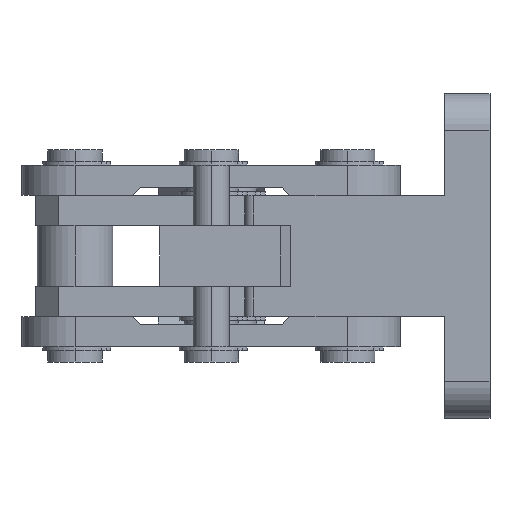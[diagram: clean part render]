
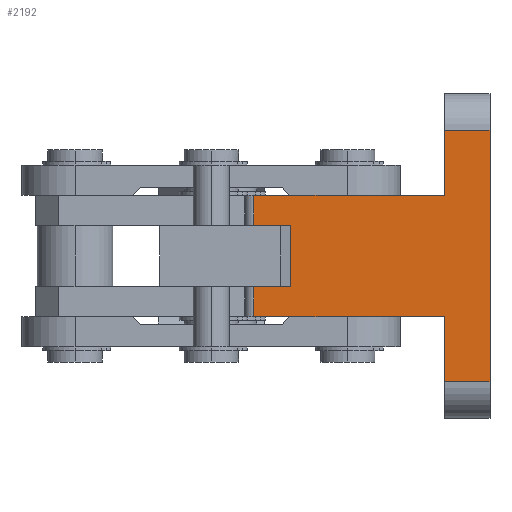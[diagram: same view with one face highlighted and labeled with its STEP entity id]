
A CAD part, left-side view. The second image highlights one B-rep face of the part: STEP entity #2192.
In plain terms, the highlighted planar face has unit normal (-1, 0, 0).
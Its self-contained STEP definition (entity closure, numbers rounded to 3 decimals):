
#1681 = VERTEX_POINT ( 'NONE', #7145 ) ;
#1683 = EDGE_CURVE ( 'NONE', #1681, #1684, #7144, .T. ) ;
#1684 = VERTEX_POINT ( 'NONE', #7140 ) ;
#1718 = EDGE_CURVE ( 'NONE', #1737, #1719, #7215, .T. ) ;
#1719 = VERTEX_POINT ( 'NONE', #7211 ) ;
#1726 = VERTEX_POINT ( 'NONE', #7199 ) ;
#1737 = VERTEX_POINT ( 'NONE', #7233 ) ;
#1748 = EDGE_CURVE ( 'NONE', #1726, #1749, #7226, .T. ) ;
#1749 = VERTEX_POINT ( 'NONE', #7222 ) ;
#1770 = EDGE_CURVE ( 'NONE', #1684, #1737, #7269, .T. ) ;
#1790 = EDGE_CURVE ( 'NONE', #1719, #1726, #7303, .T. ) ;
#1810 = VERTEX_POINT ( 'NONE', #7327 ) ;
#1813 = EDGE_CURVE ( 'NONE', #1810, #1814, #7325, .T. ) ;
#1814 = VERTEX_POINT ( 'NONE', #7321 ) ;
#1847 = EDGE_CURVE ( 'NONE', #1749, #1920, #7408, .T. ) ;
#1863 = EDGE_CURVE ( 'NONE', #1920, #1864, #7384, .T. ) ;
#1864 = VERTEX_POINT ( 'NONE', #7380 ) ;
#1899 = EDGE_CURVE ( 'NONE', #1814, #1681, #7457, .T. ) ;
#1920 = VERTEX_POINT ( 'NONE', #7498 ) ;
#2006 = EDGE_CURVE ( 'NONE', #1864, #2007, #7579, .T. ) ;
#2007 = VERTEX_POINT ( 'NONE', #7575 ) ;
#2101 = ORIENTED_EDGE ( 'NONE', *, *, #1790, .F. ) ;
#2102 = ORIENTED_EDGE ( 'NONE', *, *, #1718, .F. ) ;
#2103 = ORIENTED_EDGE ( 'NONE', *, *, #1770, .F. ) ;
#2104 = ORIENTED_EDGE ( 'NONE', *, *, #1683, .F. ) ;
#2105 = ORIENTED_EDGE ( 'NONE', *, *, #1899, .F. ) ;
#2132 = VERTEX_POINT ( 'NONE', #7809 ) ;
#2191 = EDGE_CURVE ( 'NONE', #2132, #1810, #7916, .T. ) ;
#2192 = ADVANCED_FACE ( 'NONE', ( #7912 ), #7911, .F. ) ;
#2193 = EDGE_LOOP ( 'NONE', ( #2194, #2195, #2196, #2198, #2199, #2200, #2201, #2101, #2102, #2103, #2104, #2105 ) ) ;
#2194 = ORIENTED_EDGE ( 'NONE', *, *, #1813, .F. ) ;
#2195 = ORIENTED_EDGE ( 'NONE', *, *, #2191, .F. ) ;
#2196 = ORIENTED_EDGE ( 'NONE', *, *, #2197, .T. ) ;
#2197 = EDGE_CURVE ( 'NONE', #2132, #2007, #7909, .T. ) ;
#2198 = ORIENTED_EDGE ( 'NONE', *, *, #2006, .F. ) ;
#2199 = ORIENTED_EDGE ( 'NONE', *, *, #1863, .F. ) ;
#2200 = ORIENTED_EDGE ( 'NONE', *, *, #1847, .F. ) ;
#2201 = ORIENTED_EDGE ( 'NONE', *, *, #1748, .F. ) ;
#7140 = CARTESIAN_POINT ( 'NONE',  ( 0., 78., -10.1 ) ) ;
#7141 = DIRECTION ( 'NONE',  ( 0., 0., 1. ) ) ;
#7142 = VECTOR ( 'NONE', #7141, 1000. ) ;
#7143 = CARTESIAN_POINT ( 'NONE',  ( 0., 78., 53.5 ) ) ;
#7144 = LINE ( 'NONE', #7143, #7142 ) ;
#7145 = CARTESIAN_POINT ( 'NONE',  ( 0., 78., -20. ) ) ;
#7199 = CARTESIAN_POINT ( 'NONE',  ( 0., 78., 10.1 ) ) ;
#7211 = CARTESIAN_POINT ( 'NONE',  ( 0., 66., 10.1 ) ) ;
#7212 = DIRECTION ( 'NONE',  ( 0., 0., 1. ) ) ;
#7213 = VECTOR ( 'NONE', #7212, 1000. ) ;
#7214 = CARTESIAN_POINT ( 'NONE',  ( 0., 66., 53.5 ) ) ;
#7215 = LINE ( 'NONE', #7214, #7213 ) ;
#7222 = CARTESIAN_POINT ( 'NONE',  ( 0., 78., 20. ) ) ;
#7223 = DIRECTION ( 'NONE',  ( 0., 0., 1. ) ) ;
#7224 = VECTOR ( 'NONE', #7223, 1000. ) ;
#7225 = CARTESIAN_POINT ( 'NONE',  ( 0., 78., 53.5 ) ) ;
#7226 = LINE ( 'NONE', #7225, #7224 ) ;
#7233 = CARTESIAN_POINT ( 'NONE',  ( 0., 66., -10.1 ) ) ;
#7266 = DIRECTION ( 'NONE',  ( 0., -1., 0. ) ) ;
#7267 = VECTOR ( 'NONE', #7266, 1000. ) ;
#7268 = CARTESIAN_POINT ( 'NONE',  ( 0., 78., -10.1 ) ) ;
#7269 = LINE ( 'NONE', #7268, #7267 ) ;
#7300 = DIRECTION ( 'NONE',  ( 0., 1., 0. ) ) ;
#7301 = VECTOR ( 'NONE', #7300, 1000. ) ;
#7302 = CARTESIAN_POINT ( 'NONE',  ( 0., 78., 10.1 ) ) ;
#7303 = LINE ( 'NONE', #7302, #7301 ) ;
#7321 = CARTESIAN_POINT ( 'NONE',  ( 0., 15., -20. ) ) ;
#7322 = DIRECTION ( 'NONE',  ( 0., 0., 1. ) ) ;
#7323 = VECTOR ( 'NONE', #7322, 1000. ) ;
#7324 = CARTESIAN_POINT ( 'NONE',  ( 0., 15., 53.5 ) ) ;
#7325 = LINE ( 'NONE', #7324, #7323 ) ;
#7327 = CARTESIAN_POINT ( 'NONE',  ( 0., 15., -41.5 ) ) ;
#7380 = CARTESIAN_POINT ( 'NONE',  ( 0., 15., 41.5 ) ) ;
#7381 = DIRECTION ( 'NONE',  ( 0., 0., 1. ) ) ;
#7382 = VECTOR ( 'NONE', #7381, 1000. ) ;
#7383 = CARTESIAN_POINT ( 'NONE',  ( 0., 15., 53.5 ) ) ;
#7384 = LINE ( 'NONE', #7383, #7382 ) ;
#7405 = DIRECTION ( 'NONE',  ( 0., -1., 0. ) ) ;
#7406 = VECTOR ( 'NONE', #7405, 1000. ) ;
#7407 = CARTESIAN_POINT ( 'NONE',  ( 0., 78., 20. ) ) ;
#7408 = LINE ( 'NONE', #7407, #7406 ) ;
#7451 = DIRECTION ( 'NONE',  ( 0., 1., 0. ) ) ;
#7452 = VECTOR ( 'NONE', #7451, 1000. ) ;
#7453 = CARTESIAN_POINT ( 'NONE',  ( 0., 78., -20. ) ) ;
#7457 = LINE ( 'NONE', #7453, #7452 ) ;
#7498 = CARTESIAN_POINT ( 'NONE',  ( 0., 15., 20. ) ) ;
#7575 = CARTESIAN_POINT ( 'NONE',  ( 0., 0., 41.5 ) ) ;
#7576 = DIRECTION ( 'NONE',  ( 0., -1., 0. ) ) ;
#7577 = VECTOR ( 'NONE', #7576, 1000. ) ;
#7578 = CARTESIAN_POINT ( 'NONE',  ( 0., 78., 41.5 ) ) ;
#7579 = LINE ( 'NONE', #7578, #7577 ) ;
#7809 = CARTESIAN_POINT ( 'NONE',  ( 0., 0., -41.5 ) ) ;
#7903 = DIRECTION ( 'NONE',  ( 0., 0., 1. ) ) ;
#7904 = VECTOR ( 'NONE', #7903, 1000. ) ;
#7905 = CARTESIAN_POINT ( 'NONE',  ( 0., 0., 53.5 ) ) ;
#7906 = DIRECTION ( 'NONE',  ( 0., 0., -1. ) ) ;
#7907 = DIRECTION ( 'NONE',  ( 1., 0., 0. ) ) ;
#7908 = CARTESIAN_POINT ( 'NONE',  ( 0., 78., 53.5 ) ) ;
#7909 = LINE ( 'NONE', #7905, #7904 ) ;
#7910 = AXIS2_PLACEMENT_3D ( 'NONE', #7908, #7907, #7906 ) ;
#7911 = PLANE ( 'NONE',  #7910 ) ;
#7912 = FACE_OUTER_BOUND ( 'NONE', #2193, .T. ) ;
#7913 = DIRECTION ( 'NONE',  ( 0., 1., 0. ) ) ;
#7914 = VECTOR ( 'NONE', #7913, 1000. ) ;
#7915 = CARTESIAN_POINT ( 'NONE',  ( 0., 78., -41.5 ) ) ;
#7916 = LINE ( 'NONE', #7915, #7914 ) ;
